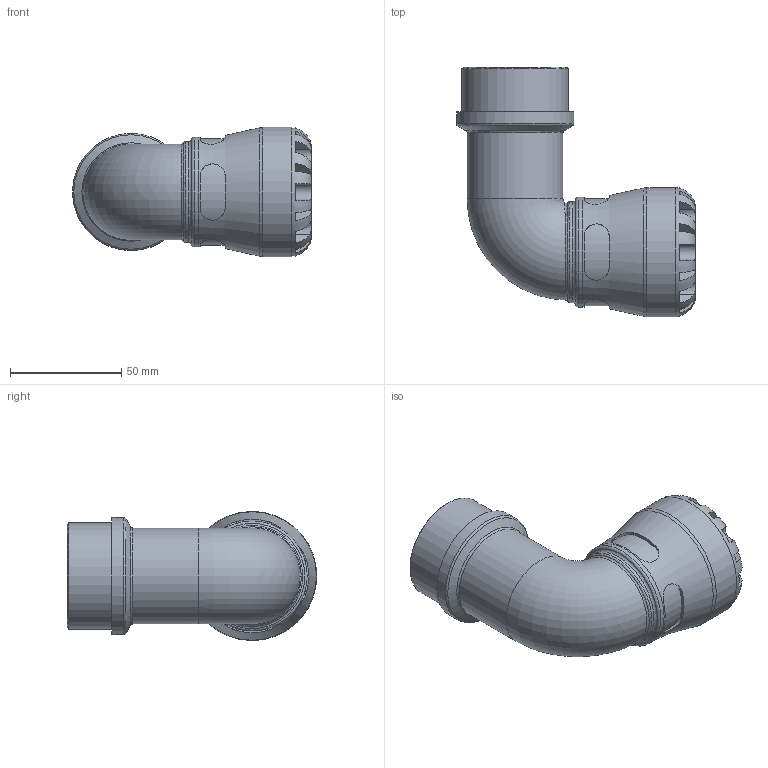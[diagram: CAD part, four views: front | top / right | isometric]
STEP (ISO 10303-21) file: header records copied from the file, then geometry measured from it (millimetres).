
FILE_DESCRIPTION(/* description */ ('PLASSON 90° ELBOW WITH MALE INTEGRAL BRASS 32X1.1/2" SERIES 1'),/* implementation_level */ '2;1');
FILE_NAME(/* name */ 'C:\Dropbox\KIMPROJECTS-Inventor\99-16-3568-Processing\1077\107700032015_197700032015.ipt.stp',/* time_stamp */ '2017-01-22T11:54:30+02:00',/* author */ ('KIM'),/* organization */ (''),/* preprocessor_version */ 'ST-DEVELOPER v15.6',/* originating_system */ 'Autodesk Inventor 2015',/* authorisation */ '');
FILE_SCHEMA (('AUTOMOTIVE_DESIGN { 1 0 10303 214 3 1 1 }'));
Length unit declared in the file: millimetre
Products named in the file (1): 107700032015_197700032015
Bounding box: 107.29 x 112 x 58 mm (x, y, z)
Volume: 145469.5 mm3; surface area: 43987.8 mm2
Topology: 1 solids, 1 shells, 111 faces, 278 edges, 173 vertices
Faces by surface type: plane 60, cylinder 37, torus 9, cone 3, bspline 2
Full cylindrical faces by diameter (mm): 32 x1, 33.462 x2, 43.023 x1, 45.24 x1, 47.803 x1, 49.3 x1, 52.583 x1, 58 x1
Entity records: 4309 total; most frequent: CARTESIAN_POINT 1734, ORIENTED_EDGE 494, DIRECTION 494, EDGE_CURVE 247, AXIS2_PLACEMENT_3D 207, VERTEX_POINT 165, EDGE_LOOP 140, STYLED_ITEM 112
